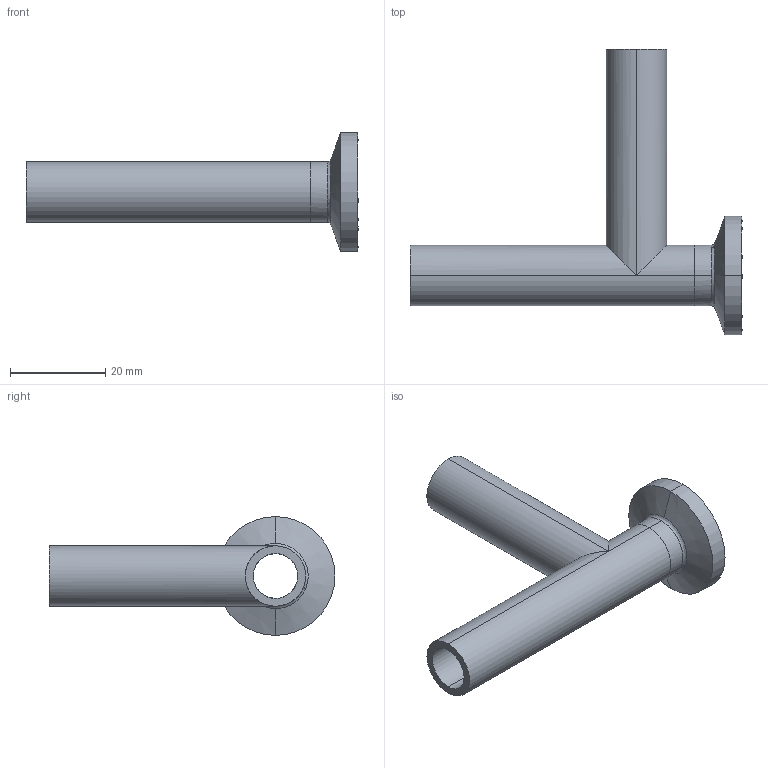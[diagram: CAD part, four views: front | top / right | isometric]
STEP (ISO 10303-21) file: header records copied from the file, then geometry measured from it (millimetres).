
FILE_DESCRIPTION (( 'STEP AP214' ), '1' );
FILE_NAME ('TE7WCSW6L.5-...STEP', '2016-05-24T11:38:06', ( 'eran' ), ( '' ), 'SwSTEP 2.0', 'SolidWorks 2016', '' );
FILE_SCHEMA (( 'AUTOMOTIVE_DESIGN' ));
Length unit declared in the file: millimetre
Products named in the file (1): TE7WCSW6L.5-..
Bounding box: 69.8 x 60.1 x 24.99 mm (x, y, z)
Volume: 7638.2 mm3; surface area: 8855.7 mm2
Topology: 2 solids, 2 shells, 36 faces, 86 edges, 54 vertices
Faces by surface type: cylinder 18, bspline 8, plane 6, cone 4
Entity records: 1779 total; most frequent: CARTESIAN_POINT 911, DIRECTION 176, ORIENTED_EDGE 172, EDGE_CURVE 86, AXIS2_PLACEMENT_3D 76, VERTEX_POINT 54, CIRCLE 47, EDGE_LOOP 42
